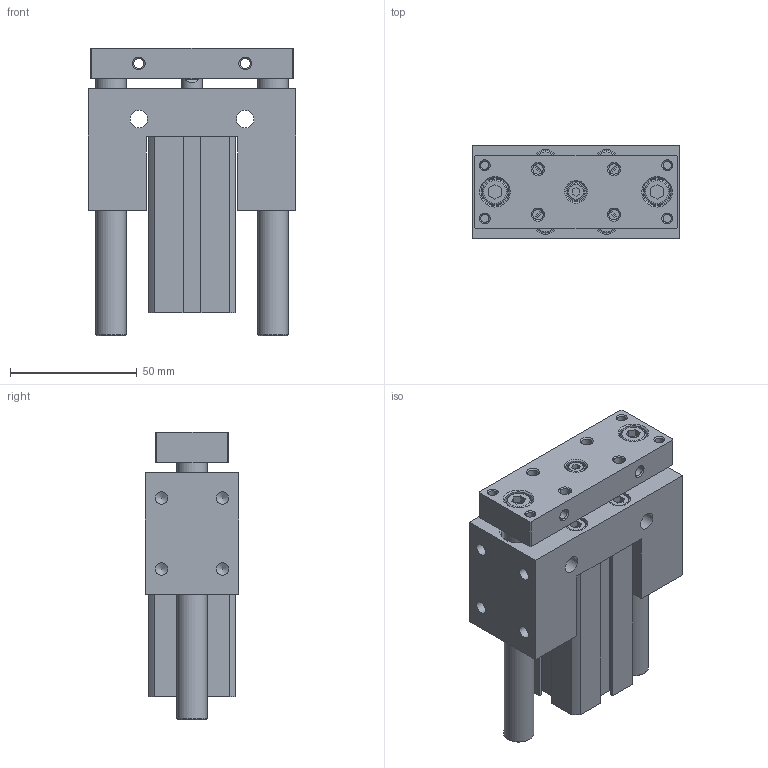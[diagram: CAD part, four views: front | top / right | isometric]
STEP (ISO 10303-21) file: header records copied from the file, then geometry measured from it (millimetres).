
FILE_DESCRIPTION((''),'2;1');
FILE_NAME('I:\3D電子目錄\氣缸\JCB\JCB\JCB20\JCB20x50.stp','2007-08-21T18:18:34',('Administrator'),(''),'Autodesk Inventor 11','Autodesk Inventor 11','');
FILE_SCHEMA(('AUTOMOTIVE_DESIGN { 1 0 10303 214 1 1 1 1 }'));
Length unit declared in the file: millimetre
Products named in the file (1): JCB20
Bounding box: 82 x 37 x 113.5 mm (x, y, z)
Volume: 199678.3 mm3; surface area: 64053.3 mm2
Topology: 5 solids, 5 shells, 293 faces, 643 edges, 415 vertices
Faces by surface type: plane 150, bspline 53, cylinder 45, cone 37, torus 8
Full cylindrical faces by diameter (mm): 1.5 x2, 4.3 x4, 4.917 x4, 7 x9, 8 x1, 8.5 x4, 9 x1, 10 x2, 12 x2, 13 x2, 14 x2, 22 x4, 23.2 x2
Entity records: 7875 total; most frequent: CARTESIAN_POINT 1985, DIRECTION 1184, ORIENTED_EDGE 992, EDGE_LOOP 504, EDGE_CURVE 496, AXIS2_PLACEMENT_3D 447, VERTEX_POINT 394, FACE_OUTER_BOUND 293
